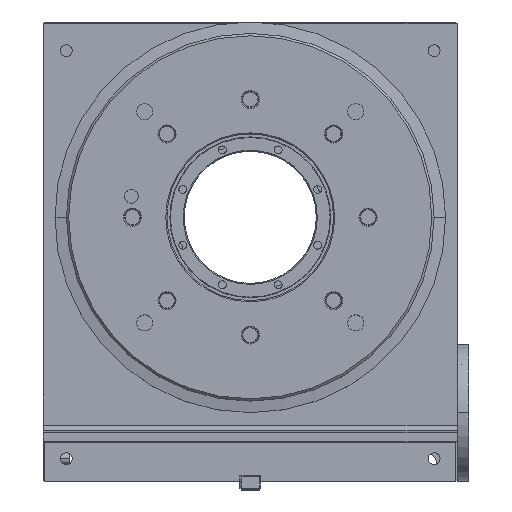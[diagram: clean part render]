
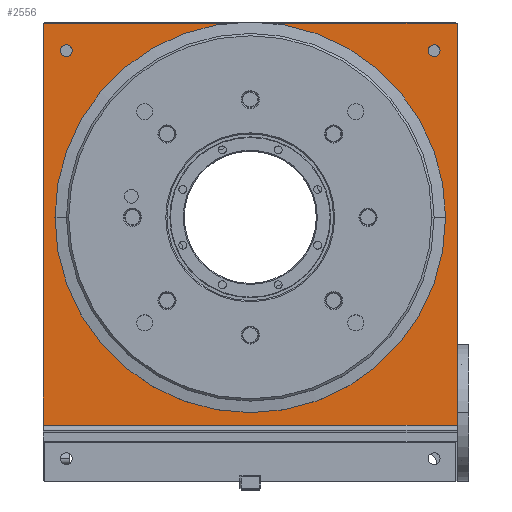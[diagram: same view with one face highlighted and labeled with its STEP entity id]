
A CAD part, top view. The second image highlights one B-rep face of the part: STEP entity #2556.
In plain terms, the highlighted planar face has unit normal (0, 0, 1).
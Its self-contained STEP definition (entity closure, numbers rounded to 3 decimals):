
#64 = LINE ( 'NONE', #20807, #6652 ) ;
#642 = DIRECTION ( 'NONE',  ( 0., 0., 1. ) ) ;
#871 = CIRCLE ( 'NONE', #9362, 5.15 ) ;
#1200 = VECTOR ( 'NONE', #3362, 1000. ) ;
#1492 = CARTESIAN_POINT ( 'NONE',  ( 167.5, 0., 70. ) ) ;
#1532 = EDGE_CURVE ( 'NONE', #15432, #19748, #6255, .T. ) ;
#1939 = CARTESIAN_POINT ( 'NONE',  ( 180., -180.751, 70. ) ) ;
#2293 = CARTESIAN_POINT ( 'NONE',  ( 0., 0., 70. ) ) ;
#2556 = ADVANCED_FACE ( 'NONE', ( #7400, #16334, #14644, #17898 ), #11023, .F. ) ;
#2618 = DIRECTION ( 'NONE',  ( 0., -1., 0. ) ) ;
#3146 = CARTESIAN_POINT ( 'NONE',  ( -180., 169., 70. ) ) ;
#3362 = DIRECTION ( 'NONE',  ( -1., 0., 0. ) ) ;
#3495 = CIRCLE ( 'NONE', #14292, 167.5 ) ;
#3776 = CARTESIAN_POINT ( 'NONE',  ( -180., -180.751, 70. ) ) ;
#4205 = VERTEX_POINT ( 'NONE', #20093 ) ;
#4272 = CARTESIAN_POINT ( 'NONE',  ( -165.15, 145., 70. ) ) ;
#4335 = DIRECTION ( 'NONE',  ( 0., 0., 1. ) ) ;
#4501 = VERTEX_POINT ( 'NONE', #12912 ) ;
#4508 = CARTESIAN_POINT ( 'NONE',  ( -160., 145., 70. ) ) ;
#4582 = EDGE_CURVE ( 'NONE', #4205, #19376, #22491, .T. ) ;
#5009 = EDGE_LOOP ( 'NONE', ( #20082, #20597 ) ) ;
#6200 = DIRECTION ( 'NONE',  ( 1., 0., 0. ) ) ;
#6224 = AXIS2_PLACEMENT_3D ( 'NONE', #2293, #6409, #13775 ) ;
#6255 = LINE ( 'NONE', #13618, #20695 ) ;
#6409 = DIRECTION ( 'NONE',  ( 0., 0., 1. ) ) ;
#6652 = VECTOR ( 'NONE', #15025, 1000. ) ;
#6883 = EDGE_CURVE ( 'NONE', #16641, #7992, #3495, .T. ) ;
#6992 = ORIENTED_EDGE ( 'NONE', *, *, #22246, .F. ) ;
#6994 = LINE ( 'NONE', #9049, #1200 ) ;
#7157 = EDGE_CURVE ( 'NONE', #4501, #15432, #6994, .T. ) ;
#7158 = CARTESIAN_POINT ( 'NONE',  ( 180., 170., 70. ) ) ;
#7281 = DIRECTION ( 'NONE',  ( 0., 1., 0. ) ) ;
#7400 = FACE_BOUND ( 'NONE', #19683, .T. ) ;
#7986 = ORIENTED_EDGE ( 'NONE', *, *, #7157, .T. ) ;
#7992 = VERTEX_POINT ( 'NONE', #1492 ) ;
#8428 = EDGE_CURVE ( 'NONE', #19748, #11369, #11360, .T. ) ;
#8771 = EDGE_LOOP ( 'NONE', ( #21825, #7986, #11715, #11492 ) ) ;
#9049 = CARTESIAN_POINT ( 'NONE',  ( 180., 169., 70. ) ) ;
#9309 = ORIENTED_EDGE ( 'NONE', *, *, #4582, .F. ) ;
#9362 = AXIS2_PLACEMENT_3D ( 'NONE', #13420, #17158, #13892 ) ;
#9776 = CARTESIAN_POINT ( 'NONE',  ( 0., 0., 70. ) ) ;
#10271 = CIRCLE ( 'NONE', #11066, 5.15 ) ;
#11023 = PLANE ( 'NONE',  #18760 ) ;
#11066 = AXIS2_PLACEMENT_3D ( 'NONE', #17136, #4335, #23030 ) ;
#11360 = LINE ( 'NONE', #1939, #13981 ) ;
#11369 = VERTEX_POINT ( 'NONE', #20086 ) ;
#11492 = ORIENTED_EDGE ( 'NONE', *, *, #8428, .T. ) ;
#11557 = DIRECTION ( 'NONE',  ( 1., 0., 0. ) ) ;
#11715 = ORIENTED_EDGE ( 'NONE', *, *, #1532, .T. ) ;
#12095 = AXIS2_PLACEMENT_3D ( 'NONE', #13378, #20738, #11557 ) ;
#12220 = VERTEX_POINT ( 'NONE', #4272 ) ;
#12583 = CARTESIAN_POINT ( 'NONE',  ( -167.5, 0., 70. ) ) ;
#12830 = DIRECTION ( 'NONE',  ( 0., 0., -1. ) ) ;
#12912 = CARTESIAN_POINT ( 'NONE',  ( 180., 169., 70. ) ) ;
#13283 = ORIENTED_EDGE ( 'NONE', *, *, #19865, .F. ) ;
#13378 = CARTESIAN_POINT ( 'NONE',  ( 160., 145., 70. ) ) ;
#13420 = CARTESIAN_POINT ( 'NONE',  ( 160., 145., 70. ) ) ;
#13443 = CARTESIAN_POINT ( 'NONE',  ( 154.85, 145., 70. ) ) ;
#13514 = DIRECTION ( 'NONE',  ( 0., 0., 1. ) ) ;
#13618 = CARTESIAN_POINT ( 'NONE',  ( -180., 170., 70. ) ) ;
#13775 = DIRECTION ( 'NONE',  ( 0., 1., 0. ) ) ;
#13892 = DIRECTION ( 'NONE',  ( 1., 0., 0. ) ) ;
#13981 = VECTOR ( 'NONE', #20418, 1000. ) ;
#14242 = VERTEX_POINT ( 'NONE', #17976 ) ;
#14292 = AXIS2_PLACEMENT_3D ( 'NONE', #9776, #13514, #18833 ) ;
#14369 = AXIS2_PLACEMENT_3D ( 'NONE', #4508, #642, #6200 ) ;
#14644 = FACE_OUTER_BOUND ( 'NONE', #8771, .T. ) ;
#15025 = DIRECTION ( 'NONE',  ( 0., -1., 0. ) ) ;
#15432 = VERTEX_POINT ( 'NONE', #3146 ) ;
#16334 = FACE_BOUND ( 'NONE', #21548, .T. ) ;
#16641 = VERTEX_POINT ( 'NONE', #12583 ) ;
#17136 = CARTESIAN_POINT ( 'NONE',  ( -160., 145., 70. ) ) ;
#17158 = DIRECTION ( 'NONE',  ( 0., 0., 1. ) ) ;
#17898 = FACE_BOUND ( 'NONE', #5009, .T. ) ;
#17976 = CARTESIAN_POINT ( 'NONE',  ( -154.85, 145., 70. ) ) ;
#18730 = EDGE_CURVE ( 'NONE', #7992, #16641, #20869, .T. ) ;
#18760 = AXIS2_PLACEMENT_3D ( 'NONE', #7158, #12830, #7281 ) ;
#18833 = DIRECTION ( 'NONE',  ( 0., 1., 0. ) ) ;
#19376 = VERTEX_POINT ( 'NONE', #13443 ) ;
#19417 = EDGE_CURVE ( 'NONE', #4501, #11369, #64, .T. ) ;
#19578 = EDGE_CURVE ( 'NONE', #12220, #14242, #20167, .T. ) ;
#19683 = EDGE_LOOP ( 'NONE', ( #6992, #22672 ) ) ;
#19748 = VERTEX_POINT ( 'NONE', #3776 ) ;
#19865 = EDGE_CURVE ( 'NONE', #19376, #4205, #871, .T. ) ;
#20082 = ORIENTED_EDGE ( 'NONE', *, *, #6883, .F. ) ;
#20086 = CARTESIAN_POINT ( 'NONE',  ( 180., -180.751, 70. ) ) ;
#20093 = CARTESIAN_POINT ( 'NONE',  ( 165.15, 145., 70. ) ) ;
#20167 = CIRCLE ( 'NONE', #14369, 5.15 ) ;
#20418 = DIRECTION ( 'NONE',  ( 1., 0., 0. ) ) ;
#20597 = ORIENTED_EDGE ( 'NONE', *, *, #18730, .F. ) ;
#20695 = VECTOR ( 'NONE', #2618, 1000. ) ;
#20738 = DIRECTION ( 'NONE',  ( 0., 0., 1. ) ) ;
#20807 = CARTESIAN_POINT ( 'NONE',  ( 180., 170., 70. ) ) ;
#20869 = CIRCLE ( 'NONE', #6224, 167.5 ) ;
#21548 = EDGE_LOOP ( 'NONE', ( #9309, #13283 ) ) ;
#21825 = ORIENTED_EDGE ( 'NONE', *, *, #19417, .F. ) ;
#22246 = EDGE_CURVE ( 'NONE', #14242, #12220, #10271, .T. ) ;
#22491 = CIRCLE ( 'NONE', #12095, 5.15 ) ;
#22672 = ORIENTED_EDGE ( 'NONE', *, *, #19578, .F. ) ;
#23030 = DIRECTION ( 'NONE',  ( 1., 0., 0. ) ) ;
